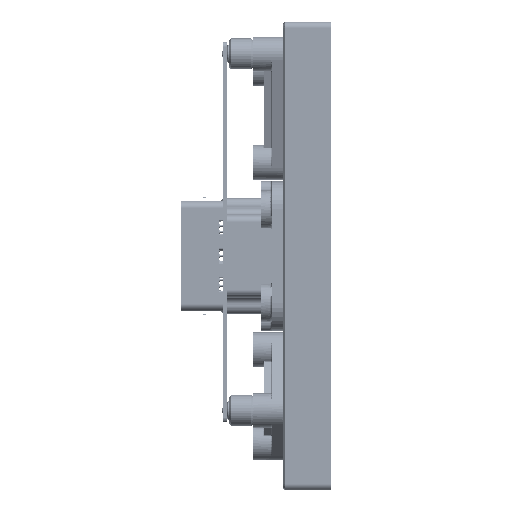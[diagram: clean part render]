
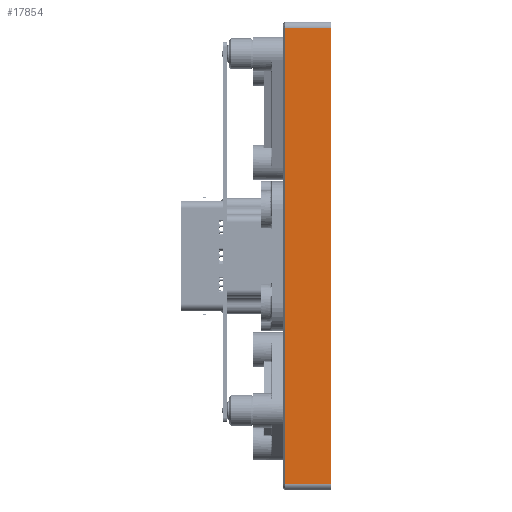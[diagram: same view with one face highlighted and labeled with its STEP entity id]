
A CAD part, left-side view. The second image highlights one B-rep face of the part: STEP entity #17854.
In plain terms, the highlighted planar face has unit normal (-1, 0, 0).
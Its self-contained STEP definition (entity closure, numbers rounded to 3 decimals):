
#2621 = ORIENTED_EDGE ( 'NONE', *, *, #17780, .T. ) ;
#8184 = PLANE ( 'NONE',  #119111 ) ;
#8287 = LINE ( 'NONE', #96866, #184664 ) ;
#8401 = CARTESIAN_POINT ( 'NONE',  ( -125., 11.7, -122. ) ) ;
#12753 = VECTOR ( 'NONE', #136551, 1000. ) ;
#16434 = LINE ( 'NONE', #30889, #50292 ) ;
#17780 = EDGE_CURVE ( 'NONE', #35870, #105105, #103867, .T. ) ;
#17854 = ADVANCED_FACE ( 'NONE', ( #150110 ), #8184, .F. ) ;
#18100 = CARTESIAN_POINT ( 'NONE',  ( -125., 12.7, -125. ) ) ;
#20458 = EDGE_LOOP ( 'NONE', ( #155916, #2621, #117451, #107990 ) ) ;
#25434 = EDGE_CURVE ( 'NONE', #43708, #35870, #96967, .T. ) ;
#30661 = CARTESIAN_POINT ( 'NONE',  ( -125., 11.7, -122. ) ) ;
#30889 = CARTESIAN_POINT ( 'NONE',  ( -125., -12.7, -125. ) ) ;
#32874 = VECTOR ( 'NONE', #71178, 1000. ) ;
#34454 = DIRECTION ( 'NONE',  ( 0., 0., -1. ) ) ;
#35870 = VERTEX_POINT ( 'NONE', #48281 ) ;
#38211 = CARTESIAN_POINT ( 'NONE',  ( -125., 12.7, 122. ) ) ;
#43708 = VERTEX_POINT ( 'NONE', #76066 ) ;
#48281 = CARTESIAN_POINT ( 'NONE',  ( -125., 11.7, 122. ) ) ;
#50292 = VECTOR ( 'NONE', #77063, 1000. ) ;
#66391 = EDGE_CURVE ( 'NONE', #105105, #163251, #8287, .T. ) ;
#71178 = DIRECTION ( 'NONE',  ( 0., 0., -1. ) ) ;
#76066 = CARTESIAN_POINT ( 'NONE',  ( -125., -12.7, 122. ) ) ;
#77063 = DIRECTION ( 'NONE',  ( 0., 0., 1. ) ) ;
#82159 = EDGE_CURVE ( 'NONE', #163251, #43708, #16434, .T. ) ;
#96866 = CARTESIAN_POINT ( 'NONE',  ( -125., 12.7, -122. ) ) ;
#96967 = LINE ( 'NONE', #38211, #12753 ) ;
#103867 = LINE ( 'NONE', #30661, #32874 ) ;
#105105 = VERTEX_POINT ( 'NONE', #8401 ) ;
#107652 = DIRECTION ( 'NONE',  ( 1., 0., 0. ) ) ;
#107990 = ORIENTED_EDGE ( 'NONE', *, *, #82159, .T. ) ;
#108433 = CARTESIAN_POINT ( 'NONE',  ( -125., -12.7, -122. ) ) ;
#117451 = ORIENTED_EDGE ( 'NONE', *, *, #66391, .T. ) ;
#119111 = AXIS2_PLACEMENT_3D ( 'NONE', #18100, #107652, #34454 ) ;
#126768 = DIRECTION ( 'NONE',  ( 0., -1., 0. ) ) ;
#136551 = DIRECTION ( 'NONE',  ( 0., 1., 0. ) ) ;
#150110 = FACE_OUTER_BOUND ( 'NONE', #20458, .T. ) ;
#155916 = ORIENTED_EDGE ( 'NONE', *, *, #25434, .T. ) ;
#163251 = VERTEX_POINT ( 'NONE', #108433 ) ;
#184664 = VECTOR ( 'NONE', #126768, 1000. ) ;
